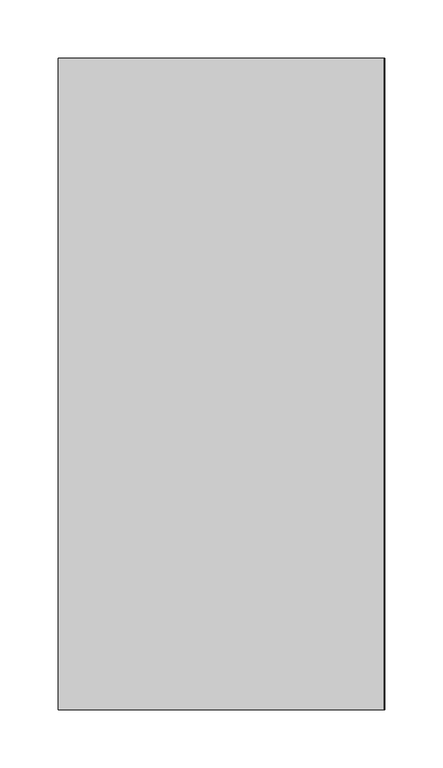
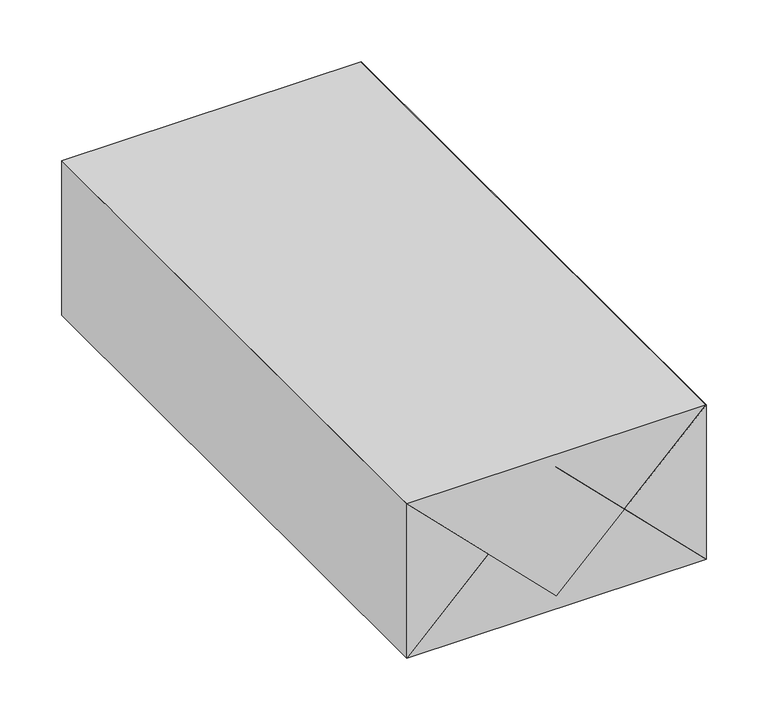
"""IFC4 building model written with IfcOpenShell, lengths in millimetres: proxy geometry, AERO^OFFICE 1_DESK SUPPORT LEG-PARTS SOLID."""

from ifc_helpers import new_model, si_unit, frame, origin, place, context, project, spatial, polyline, outline, extrude, source, transform, mapped, element, save


def generic_models_52880e5b(model_context):
    return source(origin(), model_context, "Body", "SweptSolid", [
        extrude(outline(polyline([(-76.2, 203.2), (-152.4, 279.4), (0.0, 279.4), (-76.2, 203.2)])), frame((0.0, 0.0, 0.0), z_axis=(0.0, 1.0, 0.0), x_axis=(0.0, 0.0, 1.0)), (0.0, 0.0, 1.0), 557.784),
        extrude(outline(polyline([(0.0, 0.0), (-139.7, 139.7), (0.0, 279.4), (0.0, 0.0)])), frame((0.0, 0.0, 0.0), z_axis=(0.0, 1.0, 0.0), x_axis=(0.0, 0.0, 1.0)), (0.0, 0.0, 1.0), 557.784),
        extrude(outline(polyline([(-152.4, 0.0), (-76.2, 76.2), (0.0, 0.0), (-152.4, 0.0)])), frame((0.0, 0.0, 0.0), z_axis=(0.0, 1.0, 0.0), x_axis=(0.0, 0.0, 1.0)), (0.0, 0.0, 1.0), 557.784),
        extrude(outline(polyline([(-12.7, 139.7), (-152.4, 0.0), (-152.4, 279.4), (-12.7, 139.7)])), frame((0.0, 0.0, 0.0), z_axis=(0.0, 1.0, 0.0), x_axis=(0.0, 0.0, 1.0)), (0.0, 0.0, 1.0), 557.784),
    ])


if __name__ == "__main__":
    model = new_model("IFC4")
    model_context = context("Model", 3, world=origin())
    ifc_project = project(units=[si_unit("LENGTHUNIT", "METRE", prefix="MILLI")], contexts=[model_context])
    site = spatial("IfcSite", under=ifc_project)
    building = spatial("IfcBuilding", under=site)
    placement = place(None, origin())
    generic_models_shape = generic_models_52880e5b(model_context)
    element("IfcBuildingElementProxy", 1, Name="AERO^OFFICE 1_DESK SUPPORT LEG-PARTS SOLID", ObjectType="AERO^OFFICE 1_DESK SUPPORT LEG-PARTS SOLID", at=placement, inside=building, context=model_context, shape_type="MappedRepresentation", body=[
        mapped(generic_models_shape, transform((0.0, 0.0, 0.0), x_axis=(1.0, 0.0, 0.0), y_axis=(0.0, 1.0, 0.0), z_axis=(0.0, 0.0, 1.0))),
    ])
    save(model, "model.ifc")
